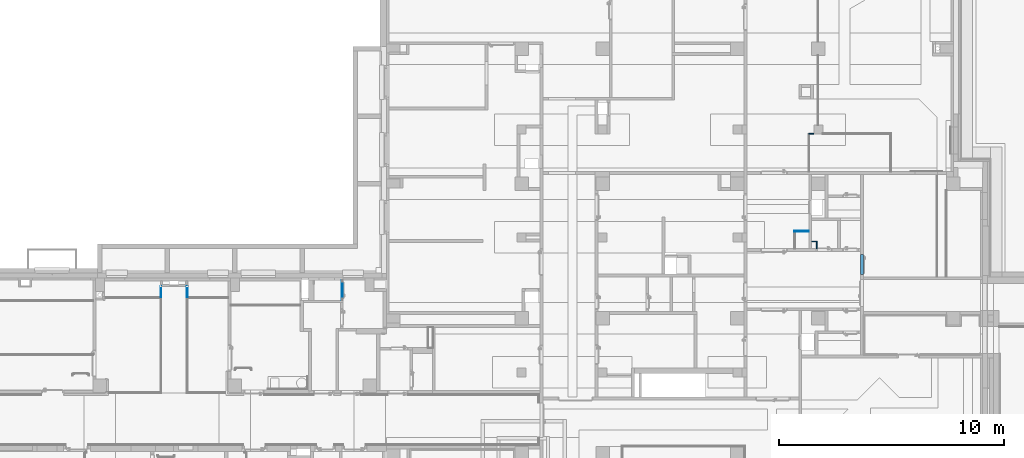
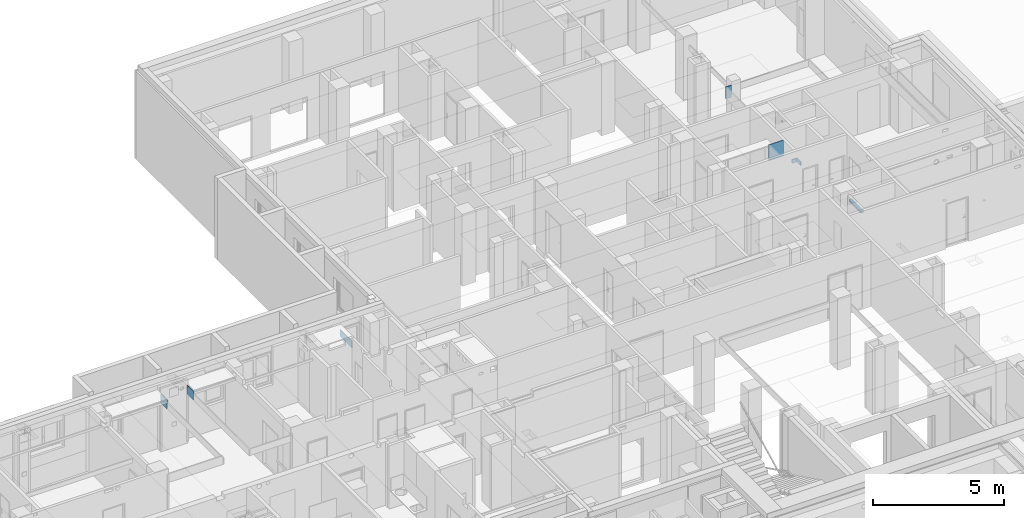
# One storey, part 46 of 84: 8 walls, 1 opening.
"""IFC4 building model written with IfcOpenShell, lengths in metres."""

from ifc_helpers import new_model, entity, si_unit, converted_unit, derived_unit, frame, frame_2d, origin, origin_with_axes, place, context, subcontext, project, spatial, polyline, rectangle, outline, extrude, material, layer, layer_set, layer_usage, element, save


model = new_model("IFC4")

# Units and contexts
model_context = context("Model", 3, precision=1e-05, world=origin())
body_context = subcontext(model_context, "Body", "Model", "MODEL_VIEW")
ifc_project = project(units=[si_unit("LENGTHUNIT", "METRE"), si_unit("AREAUNIT", "SQUARE_METRE"), si_unit("VOLUMEUNIT", "CUBIC_METRE"), si_unit("MASSUNIT", "GRAM", prefix="KILO"), converted_unit("PLANEANGLEUNIT", "DEGREE", entity("IfcPlaneAngleMeasure", 0.0174532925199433), si_unit("PLANEANGLEUNIT", "RADIAN"), dimensions=[0, 0, 0, 0, 0, 0, 0]), derived_unit("THERMALTRANSMITTANCEUNIT", [(si_unit("POWERUNIT", "WATT"), 1), (si_unit("THERMODYNAMICTEMPERATUREUNIT", "KELVIN"), -1), (si_unit("LENGTHUNIT", "METRE"), -2)]), derived_unit("VOLUMETRICFLOWRATEUNIT", [(si_unit("LENGTHUNIT", "METRE"), 3), (converted_unit("TIMEUNIT", "hour", entity("IfcTimeMeasure", 3600.0), si_unit("TIMEUNIT", "SECOND"), dimensions=[0, 0, 1, 0, 0, 0, 0]), -1), (si_unit("LENGTHUNIT", "METRE"), -1)])], contexts=[model_context])

# Site, building, storey
site_placement = place(None, origin())
site = spatial("IfcSite", under=ifc_project, at=site_placement, Name="3. ASŘ", CompositionType="ELEMENT")
building_placement = place(site_placement, origin())
building = spatial("IfcBuilding", under=site, at=building_placement, Name="Pavilon C", CompositionType="ELEMENT")
storey_placement = place(building_placement, frame((0.0, 0.0, -3.3)))
storey = spatial("IfcBuildingStorey", under=building, at=storey_placement, Name="Půdorys 1.PP", CompositionType="ELEMENT", Elevation=-3.3)

# Walls
ifc_material_1 = material(Name="SDK SVISLA CAST PODHLEDU")
ifc_layer_1 = layer(ifc_material_1, 0.04)
ifc_layer_set_1 = layer_set([ifc_layer_1])
ifc_layer_usage_1 = layer_usage(ifc_layer_set_1, "AXIS2", "POSITIVE", 0.0)
wall_1_placement = place(storey_placement, frame((43.51, 21.4, 2.24)))
element("IfcWall", 1, at=wall_1_placement, inside=storey, material=ifc_layer_usage_1, Name="SDK SVISLA CAST PODHLEDU", context=body_context, shape_type="SweptSolid", body=[
    extrude(rectangle(XDim=0.24, YDim=0.04, at=frame_2d((0.12, 0.02), x_axis=(1.0, 0.0))), origin_with_axes(), (0.0, 0.0, 1.0), 0.55),
])
ifc_material_2 = material(Name="SDK SVISLA CAST PODHLEDU")
ifc_layer_2 = layer(ifc_material_2, 0.04)
ifc_layer_set_2 = layer_set([ifc_layer_2])
ifc_layer_usage_2 = layer_usage(ifc_layer_set_2, "AXIS2", "POSITIVE", 0.0)
wall_2_placement = place(storey_placement, frame((42.885, 17.05, 2.22)))
element("IfcWall", 2, at=wall_2_placement, inside=storey, material=ifc_layer_usage_2, Name="SDK SVISLA CAST PODHLEDU", context=body_context, shape_type="SweptSolid", body=[
    extrude(rectangle(XDim=0.64, YDim=0.04, at=frame_2d((0.32, 0.02), x_axis=(1.0, 0.0))), origin_with_axes(), (0.0, 0.0, 1.0), 0.73),
])
ifc_material_3 = material(Name="SDK SVISLA CAST PODHLEDU")
ifc_layer_3 = layer(ifc_material_3, 0.04)
ifc_layer_set_3 = layer_set([ifc_layer_3])
ifc_layer_usage_3 = layer_usage(ifc_layer_set_3, "AXIS2", "POSITIVE", 0.0)
wall_3_placement = place(storey_placement, frame((43.85, 16.64, 2.1), z_axis=(0.0, 0.0, 1.0), x_axis=(0.0, -1.0, 0.0)))
element("IfcWall", 3, at=wall_3_placement, inside=storey, material=ifc_layer_usage_3, Name="SDK SVISLA CAST PODHLEDU", context=body_context, shape_type="SweptSolid", body=[
    extrude(rectangle(XDim=0.34, YDim=0.04, at=frame_2d((0.17, 0.02), x_axis=(1.0, 0.0))), origin_with_axes(), (0.0, 0.0, 1.0), 0.17),
])
ifc_material_4 = material(Name="SDK SVISLA CAST PODHLEDU")
ifc_layer_4 = layer(ifc_material_4, 0.04)
ifc_layer_set_4 = layer_set([ifc_layer_4])
ifc_layer_usage_4 = layer_usage(ifc_layer_set_4, "AXIS2", "POSITIVE", 0.0)
wall_4_placement = place(storey_placement, frame((43.65, 16.6, 2.1)))
element("IfcWall", 4, at=wall_4_placement, inside=storey, material=ifc_layer_usage_4, Name="SDK SVISLA CAST PODHLEDU", context=body_context, shape_type="SweptSolid", body=[
    extrude(rectangle(XDim=0.2, YDim=0.04, at=frame_2d((0.1, 0.02), x_axis=(1.0, 0.0))), origin_with_axes(), (0.0, 0.0, 1.0), 0.17),
])
ifc_material_5 = material(Name="SDK SVISLA CAST PODHLEDU")
ifc_layer_5 = layer(ifc_material_5, 0.0400000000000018)
ifc_layer_set_5 = layer_set([ifc_layer_5])
ifc_layer_usage_5 = layer_usage(ifc_layer_set_5, "AXIS2", "POSITIVE", 0.0)
wall_5_placement = place(storey_placement, frame((14.7, 14.625, 2.3), z_axis=(0.0, 0.0, 1.0), x_axis=(0.0, -1.0, 0.0)))
element("IfcWall", 5, at=wall_5_placement, inside=storey, material=ifc_layer_usage_5, Name="SDK SVISLA CAST PODHLEDU", context=body_context, shape_type="SweptSolid", body=[
    extrude(rectangle(XDim=0.485, YDim=0.0400000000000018, at=frame_2d((0.2425, 0.0200000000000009), x_axis=(1.0, 0.0))), origin_with_axes(), (0.0, 0.0, 1.0), 0.4),
])
ifc_material_6 = material(Name="SDK SVISLA CAST PODHLEDU")
ifc_layer_6 = layer(ifc_material_6, 0.0400000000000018)
ifc_layer_set_6 = layer_set([ifc_layer_6])
ifc_layer_usage_6 = layer_usage(ifc_layer_set_6, "AXIS2", "POSITIVE", 0.0)
wall_6_placement = place(storey_placement, frame((15.9, 14.14, 2.3), z_axis=(0.0, 0.0, 1.0), x_axis=(0.0, 1.0, 0.0)))
element("IfcWall", 6, at=wall_6_placement, inside=storey, material=ifc_layer_usage_6, Name="SDK SVISLA CAST PODHLEDU", context=body_context, shape_type="SweptSolid", body=[
    extrude(rectangle(XDim=0.485, YDim=0.0400000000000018, at=frame_2d((0.2425, 0.0200000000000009), x_axis=(1.0, 0.0))), origin_with_axes(), (0.0, 0.0, 1.0), 0.4),
])
ifc_material_7 = material(Name="SDK SVISLA CAST PODHLEDU")
ifc_layer_7 = layer(ifc_material_7, 0.0400000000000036)
ifc_layer_set_7 = layer_set([ifc_layer_7])
ifc_layer_usage_7 = layer_usage(ifc_layer_set_7, "AXIS2", "POSITIVE", 0.0)
wall_7_placement = place(storey_placement, frame((22.8, 14.0, 2.4), z_axis=(0.0, 0.0, 1.0), x_axis=(0.0, 1.0, 0.0)))
element("IfcWall", 7, at=wall_7_placement, inside=storey, material=ifc_layer_usage_7, Name="SDK SVISLA CAST PODHLEDU", context=body_context, shape_type="SweptSolid", body=[
    extrude(rectangle(XDim=0.9, YDim=0.0400000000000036, at=frame_2d((0.45, 0.0200000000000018), x_axis=(1.0, 0.0))), origin_with_axes(), (0.0, 0.0, 1.0), 0.3),
])

# Wall, opening
ifc_material_8 = material(Name="ZDIVO Z CDm")
ifc_layer_8 = layer(ifc_material_8, 0.125)
ifc_layer_set_8 = layer_set([ifc_layer_8])
ifc_layer_usage_8 = layer_usage(ifc_layer_set_8, "AXIS2", "POSITIVE", 0.0)
wall_8_placement = place(storey_placement, frame((45.95, 15.15, -0.1), z_axis=(0.0, 0.0, 1.0), x_axis=(0.0, 1.0, 0.0)))
wall_8 = element("IfcWall", 8, at=wall_8_placement, inside=storey, material=ifc_layer_usage_8, Name="ZDIVO Z CDm", context=body_context, shape_type="SweptSolid", body=[
    extrude(rectangle(XDim=0.9, YDim=0.125, at=frame_2d((0.45, 0.0625), x_axis=(1.0, 0.0))), origin_with_axes(), (0.0, 0.0, 1.0), 2.12),
])
opening_placement = place(wall_8_placement, frame((0.9, 0.125, 0.1), z_axis=(0.0, -1.0, 0.0), x_axis=(0.0, 0.0, 1.0)))
element("IfcOpeningElement", 9, at=opening_placement, cuts=wall_8, Name="Dveřní otvor", ObjectType="Opening", context=body_context, shape_type="SweptSolid", body=[
    extrude(outline(polyline([(0.0, 0.9), (2.02, 0.9), (2.02, 0.0), (0.0, 0.0), (0.0, 0.9)])), origin_with_axes(), (0.0, 0.0, 1.0), 0.125),
])

save(model, "model.ifc")
